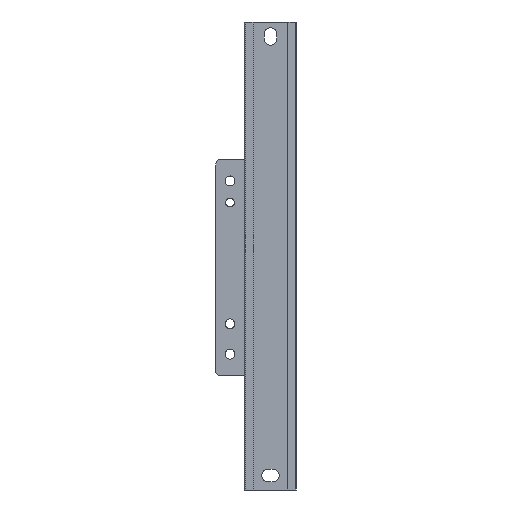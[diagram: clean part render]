
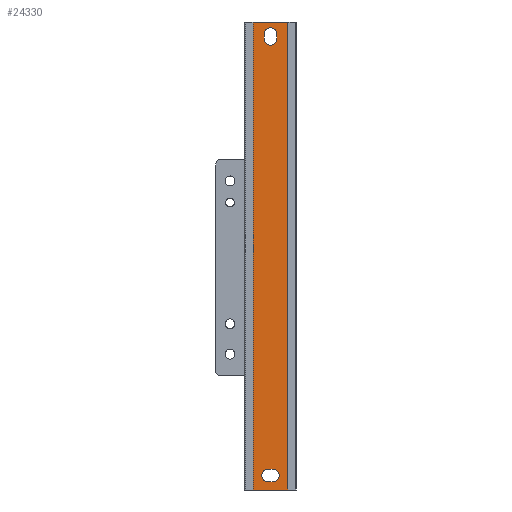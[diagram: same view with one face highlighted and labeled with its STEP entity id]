
A CAD part, front view. The second image highlights one B-rep face of the part: STEP entity #24330.
In plain terms, the highlighted planar face has unit normal (0, -1, 0).
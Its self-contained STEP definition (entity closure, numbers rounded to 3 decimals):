
#120 = VECTOR ( 'NONE', #57557, 1000. ) ;
#403 = CARTESIAN_POINT ( 'NONE',  ( 13., -6.39, -77. ) ) ;
#865 = DIRECTION ( 'NONE',  ( 1., 0., 0. ) ) ;
#1287 = CIRCLE ( 'NONE', #43975, 2.1 ) ;
#1831 = VECTOR ( 'NONE', #14490, 1000. ) ;
#2005 = VERTEX_POINT ( 'NONE', #36716 ) ;
#2302 = CARTESIAN_POINT ( 'NONE',  ( 19.9, -6.39, -74.1 ) ) ;
#2469 = DIRECTION ( 'NONE',  ( -1., 0., 0. ) ) ;
#2682 = CARTESIAN_POINT ( 'NONE',  ( 16.9, -6.39, 80.9 ) ) ;
#2846 = VERTEX_POINT ( 'NONE', #53191 ) ;
#3475 = VECTOR ( 'NONE', #11886, 1000. ) ;
#3613 = LINE ( 'NONE', #42302, #23497 ) ;
#4454 = VECTOR ( 'NONE', #41074, 1000. ) ;
#5338 = CIRCLE ( 'NONE', #34138, 2.1 ) ;
#6113 = LINE ( 'NONE', #50343, #53052 ) ;
#6281 = DIRECTION ( 'NONE',  ( 0., 1., 0. ) ) ;
#8091 = LINE ( 'NONE', #48239, #3475 ) ;
#8114 = ORIENTED_EDGE ( 'NONE', *, *, #40304, .T. ) ;
#9355 = VERTEX_POINT ( 'NONE', #403 ) ;
#10206 = ORIENTED_EDGE ( 'NONE', *, *, #36819, .T. ) ;
#10227 = ORIENTED_EDGE ( 'NONE', *, *, #48351, .F. ) ;
#10577 = DIRECTION ( 'NONE',  ( 0., 1., 0. ) ) ;
#10598 = ORIENTED_EDGE ( 'NONE', *, *, #21005, .T. ) ;
#10701 = LINE ( 'NONE', #23224, #1831 ) ;
#10733 = PLANE ( 'NONE',  #48817 ) ;
#11121 = ORIENTED_EDGE ( 'NONE', *, *, #53127, .T. ) ;
#11886 = DIRECTION ( 'NONE',  ( 0., 0., 1. ) ) ;
#12975 = CARTESIAN_POINT ( 'NONE',  ( 19.9, -6.39, -72. ) ) ;
#13212 = VERTEX_POINT ( 'NONE', #42985 ) ;
#13220 = DIRECTION ( 'NONE',  ( 1., 0., 0. ) ) ;
#13699 = VERTEX_POINT ( 'NONE', #35609 ) ;
#14490 = DIRECTION ( 'NONE',  ( -1., 0., 0. ) ) ;
#14963 = VECTOR ( 'NONE', #56144, 1000. ) ;
#15195 = AXIS2_PLACEMENT_3D ( 'NONE', #12975, #30728, #35374 ) ;
#15317 = AXIS2_PLACEMENT_3D ( 'NONE', #52937, #18032, #40111 ) ;
#15804 = DIRECTION ( 'NONE',  ( 1., 0., 0. ) ) ;
#16418 = CARTESIAN_POINT ( 'NONE',  ( 21.1, -6.39, 80.9 ) ) ;
#16473 = EDGE_CURVE ( 'NONE', #20878, #36075, #8091, .T. ) ;
#17133 = LINE ( 'NONE', #20657, #14963 ) ;
#17284 = EDGE_CURVE ( 'NONE', #13212, #2846, #37288, .T. ) ;
#18032 = DIRECTION ( 'NONE',  ( 0., 1., 0. ) ) ;
#18275 = VERTEX_POINT ( 'NONE', #16418 ) ;
#18327 = DIRECTION ( 'NONE',  ( 0., 1., 0. ) ) ;
#18545 = EDGE_LOOP ( 'NONE', ( #26280, #10598, #8114, #43491, #21978 ) ) ;
#19857 = CIRCLE ( 'NONE', #15195, 2.1 ) ;
#20657 = CARTESIAN_POINT ( 'NONE',  ( 25., -6.39, -77. ) ) ;
#20669 = CARTESIAN_POINT ( 'NONE',  ( 13., -6.39, -225. ) ) ;
#20878 = VERTEX_POINT ( 'NONE', #43535 ) ;
#21005 = EDGE_CURVE ( 'NONE', #2846, #2005, #19857, .T. ) ;
#21978 = ORIENTED_EDGE ( 'NONE', *, *, #32375, .T. ) ;
#23224 = CARTESIAN_POINT ( 'NONE',  ( 25., -6.39, -74.1 ) ) ;
#23497 = VECTOR ( 'NONE', #2469, 1000. ) ;
#23539 = FACE_OUTER_BOUND ( 'NONE', #28033, .T. ) ;
#23676 = CARTESIAN_POINT ( 'NONE',  ( 18.1, -6.39, -72. ) ) ;
#23729 = ORIENTED_EDGE ( 'NONE', *, *, #52820, .T. ) ;
#24330 = ADVANCED_FACE ( 'NONE', ( #31988, #54675, #23539 ), #10733, .F. ) ;
#24489 = VERTEX_POINT ( 'NONE', #2302 ) ;
#25538 = CARTESIAN_POINT ( 'NONE',  ( 21.1, -6.39, 79.1 ) ) ;
#26280 = ORIENTED_EDGE ( 'NONE', *, *, #17284, .T. ) ;
#26610 = ORIENTED_EDGE ( 'NONE', *, *, #16473, .T. ) ;
#26920 = DIRECTION ( 'NONE',  ( 0., 1., 0. ) ) ;
#27005 = LINE ( 'NONE', #36024, #120 ) ;
#28033 = EDGE_LOOP ( 'NONE', ( #45292, #10227, #44271, #26610 ) ) ;
#28894 = CARTESIAN_POINT ( 'NONE',  ( 16.9, -6.39, 79.1 ) ) ;
#29046 = EDGE_CURVE ( 'NONE', #36075, #13699, #3613, .T. ) ;
#29249 = DIRECTION ( 'NONE',  ( 1., 0., 0. ) ) ;
#30355 = CIRCLE ( 'NONE', #57301, 2.1 ) ;
#30728 = DIRECTION ( 'NONE',  ( 0., 1., 0. ) ) ;
#31988 = FACE_BOUND ( 'NONE', #53912, .T. ) ;
#32375 = EDGE_CURVE ( 'NONE', #45094, #13212, #1287, .T. ) ;
#34138 = AXIS2_PLACEMENT_3D ( 'NONE', #50499, #6281, #29249 ) ;
#34225 = VERTEX_POINT ( 'NONE', #28894 ) ;
#34936 = VERTEX_POINT ( 'NONE', #25538 ) ;
#35374 = DIRECTION ( 'NONE',  ( 1., 0., 0. ) ) ;
#35609 = CARTESIAN_POINT ( 'NONE',  ( 13., -6.39, 85. ) ) ;
#36024 = CARTESIAN_POINT ( 'NONE',  ( 21.1, -6.39, -225. ) ) ;
#36075 = VERTEX_POINT ( 'NONE', #44849 ) ;
#36658 = CIRCLE ( 'NONE', #15317, 2.1 ) ;
#36716 = CARTESIAN_POINT ( 'NONE',  ( 22., -6.39, -72. ) ) ;
#36819 = EDGE_CURVE ( 'NONE', #34936, #34225, #30355, .T. ) ;
#37288 = LINE ( 'NONE', #46027, #4454 ) ;
#37390 = VERTEX_POINT ( 'NONE', #2682 ) ;
#38206 = ORIENTED_EDGE ( 'NONE', *, *, #50916, .T. ) ;
#40111 = DIRECTION ( 'NONE',  ( 1., 0., 0. ) ) ;
#40304 = EDGE_CURVE ( 'NONE', #2005, #24489, #5338, .T. ) ;
#41074 = DIRECTION ( 'NONE',  ( 1., 0., 0. ) ) ;
#41605 = DIRECTION ( 'NONE',  ( 0., 0., 1. ) ) ;
#42302 = CARTESIAN_POINT ( 'NONE',  ( 25., -6.39, 85. ) ) ;
#42985 = CARTESIAN_POINT ( 'NONE',  ( 18.1, -6.39, -69.9 ) ) ;
#43359 = EDGE_CURVE ( 'NONE', #24489, #45094, #10701, .T. ) ;
#43491 = ORIENTED_EDGE ( 'NONE', *, *, #43359, .T. ) ;
#43535 = CARTESIAN_POINT ( 'NONE',  ( 25., -6.39, -77. ) ) ;
#43975 = AXIS2_PLACEMENT_3D ( 'NONE', #23676, #10577, #15804 ) ;
#44271 = ORIENTED_EDGE ( 'NONE', *, *, #47404, .F. ) ;
#44849 = CARTESIAN_POINT ( 'NONE',  ( 25., -6.39, 85. ) ) ;
#45094 = VERTEX_POINT ( 'NONE', #53655 ) ;
#45292 = ORIENTED_EDGE ( 'NONE', *, *, #29046, .T. ) ;
#46027 = CARTESIAN_POINT ( 'NONE',  ( 25., -6.39, -69.9 ) ) ;
#47404 = EDGE_CURVE ( 'NONE', #20878, #9355, #17133, .T. ) ;
#48239 = CARTESIAN_POINT ( 'NONE',  ( 25., -6.39, -225. ) ) ;
#48351 = EDGE_CURVE ( 'NONE', #9355, #13699, #56458, .T. ) ;
#48817 = AXIS2_PLACEMENT_3D ( 'NONE', #53809, #18327, #865 ) ;
#50312 = VECTOR ( 'NONE', #56157, 1000. ) ;
#50343 = CARTESIAN_POINT ( 'NONE',  ( 16.9, -6.39, -225. ) ) ;
#50499 = CARTESIAN_POINT ( 'NONE',  ( 19.9, -6.39, -72. ) ) ;
#50916 = EDGE_CURVE ( 'NONE', #37390, #18275, #36658, .T. ) ;
#52820 = EDGE_CURVE ( 'NONE', #34225, #37390, #6113, .T. ) ;
#52937 = CARTESIAN_POINT ( 'NONE',  ( 19., -6.39, 80.9 ) ) ;
#53052 = VECTOR ( 'NONE', #41605, 1000. ) ;
#53127 = EDGE_CURVE ( 'NONE', #18275, #34936, #27005, .T. ) ;
#53191 = CARTESIAN_POINT ( 'NONE',  ( 19.9, -6.39, -69.9 ) ) ;
#53380 = CARTESIAN_POINT ( 'NONE',  ( 19., -6.39, 79.1 ) ) ;
#53655 = CARTESIAN_POINT ( 'NONE',  ( 18.1, -6.39, -74.1 ) ) ;
#53809 = CARTESIAN_POINT ( 'NONE',  ( 25., -6.39, -225. ) ) ;
#53912 = EDGE_LOOP ( 'NONE', ( #11121, #10206, #23729, #38206 ) ) ;
#54675 = FACE_BOUND ( 'NONE', #18545, .T. ) ;
#56144 = DIRECTION ( 'NONE',  ( -1., 0., 0. ) ) ;
#56157 = DIRECTION ( 'NONE',  ( 0., 0., 1. ) ) ;
#56458 = LINE ( 'NONE', #20669, #50312 ) ;
#57301 = AXIS2_PLACEMENT_3D ( 'NONE', #53380, #26920, #13220 ) ;
#57557 = DIRECTION ( 'NONE',  ( 0., 0., -1. ) ) ;
